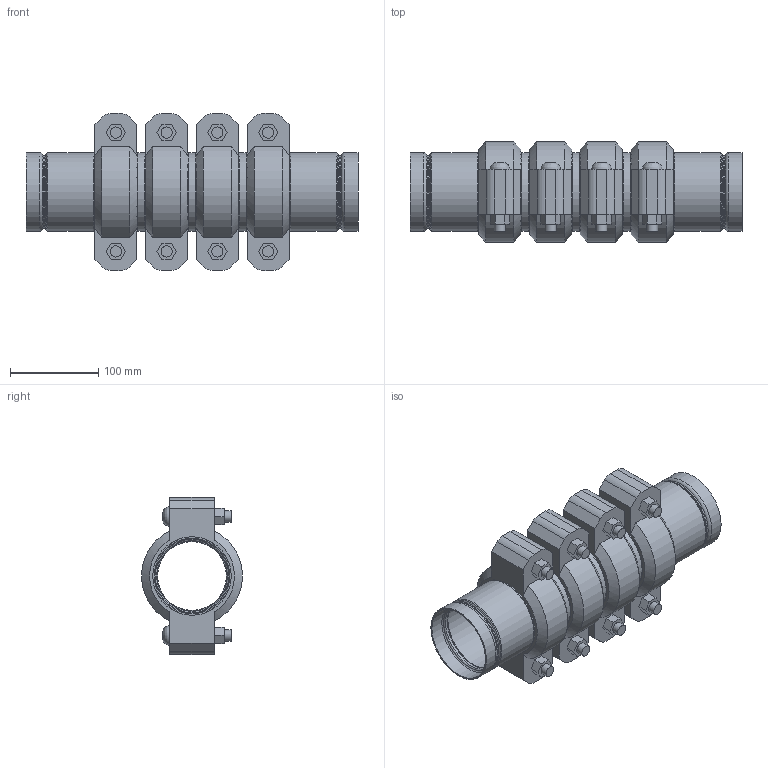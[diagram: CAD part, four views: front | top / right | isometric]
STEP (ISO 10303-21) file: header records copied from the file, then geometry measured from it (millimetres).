
FILE_DESCRIPTION(/* description */ ('VIC STRENGTHIN 100 EXPANSION JOINT 4 COUPLINGS COMPRESSED STYLE E155 (ST1)','CAx-IF Rec.Pracs.---Representation and Presentation of Product Manufacturing Information (PMI)---4.0---2014-10-13'),/* implementation_level */ '2;1');
FILE_NAME(/* name */ 'C:\Users\Vjadhav\AppData\Roaming\Autodesk\ApplicationPlugins\Victaulic.Temp\A975\Victaulic_SS-StrengThin 100_Expansion Joint_Compressed_4 Couplings_Style E155 (ST1)_3 (80).stp',/* time_stamp */ '2021-07-23T12:31:26+05:00',/* author */ ('kkamble'),/* organization */ ('Victaulic'),/* preprocessor_version */ 'ST-DEVELOPER v17.2',/* originating_system */ 'Autodesk Inventor 2019',/* authorisation */ '');
FILE_SCHEMA (('AP242_MANAGED_MODEL_BASED_3D_ENGINEERING_MIM_LF { 1 0 10303 442 1 1 4 }'));
Length unit declared in the file: inch
Products named in the file (4): E155-03.0; E494G-03.0; Nipple-03.0; 075-03.0
Assembly tree (9 placements, depth 2):
  E155-03.0
    E494G-03.0  x2
    Nipple-03.0  x3
    075-03.0  x4
Bounding box: 375.92 x 113.88 x 177.8 mm (x, y, z)
Volume: 1641079.6 mm3; surface area: 459531.1 mm2
Topology: 9 solids, 17 shells, 316 faces, 820 edges, 582 vertices
Faces by surface type: plane 166, cylinder 90, torus 32, cone 20, bspline 8
Full cylindrical faces by diameter (mm): 12.7 x16, 14.605 x8, 77.927 x3, 79.985 x2, 81.737 x2, 83.185 x2, 84.938 x8, 85.7 x6, 88.9 x19
Entity records: 3631 total; most frequent: DIRECTION 643, CARTESIAN_POINT 641, ORIENTED_EDGE 536, AXIS2_PLACEMENT_3D 273, EDGE_CURVE 268, VERTEX_POINT 193, CIRCLE 163, EDGE_LOOP 123
